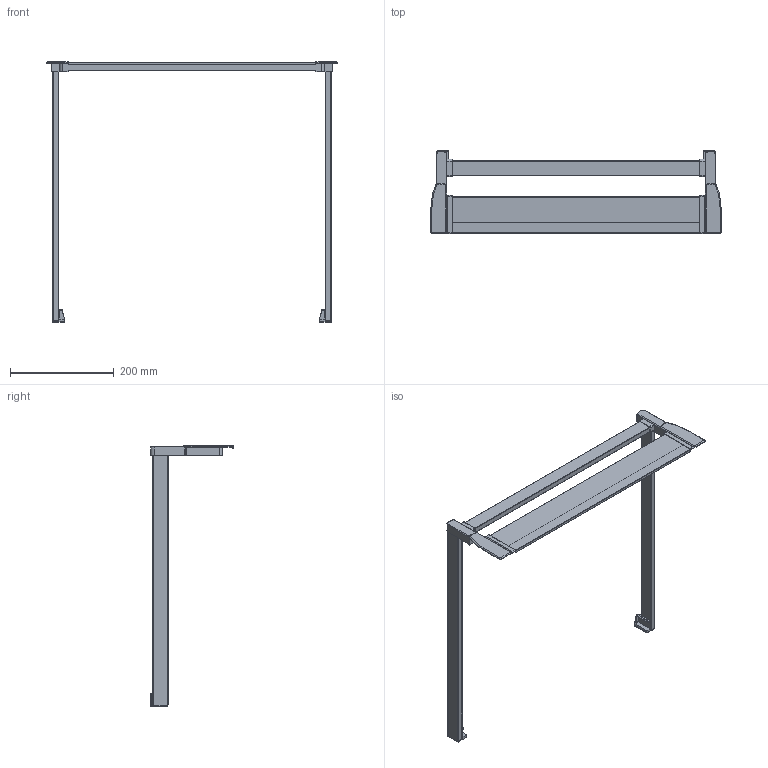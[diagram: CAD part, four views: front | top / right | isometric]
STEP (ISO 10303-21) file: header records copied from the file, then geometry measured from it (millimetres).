
FILE_DESCRIPTION (( 'STEP AP214' ), '1' );
FILE_NAME ('1_P620_NL 500_KAB 600_16er KS_.step', '2009-09-16T06:29:53', ( 'Waldinger Reinhard' ), ( 'Grass GmbH' ), 'SwSTEP 2.0', 'SolidWorks 2009', '' );
FILE_SCHEMA (( 'AUTOMOTIVE_DESIGN' ));
Length unit declared in the file: millimetre
Products named in the file (1): 1_P620_NL 500_KAB 600_16er KS_
Bounding box: 559.6 x 160.5 x 502.8 mm (x, y, z)
Volume: 988204.8 mm3; surface area: 234720.9 mm2
Topology: 1 solids, 1 shells, 220 faces, 578 edges, 364 vertices
Faces by surface type: plane 97, cylinder 91, torus 28, sphere 2, bspline 2
Entity records: 7004 total; most frequent: CARTESIAN_POINT 1345, DIRECTION 1198, ORIENTED_EDGE 1152, EDGE_CURVE 576, AXIS2_PLACEMENT_3D 433, VERTEX_POINT 364, VECTOR 332, LINE 332
